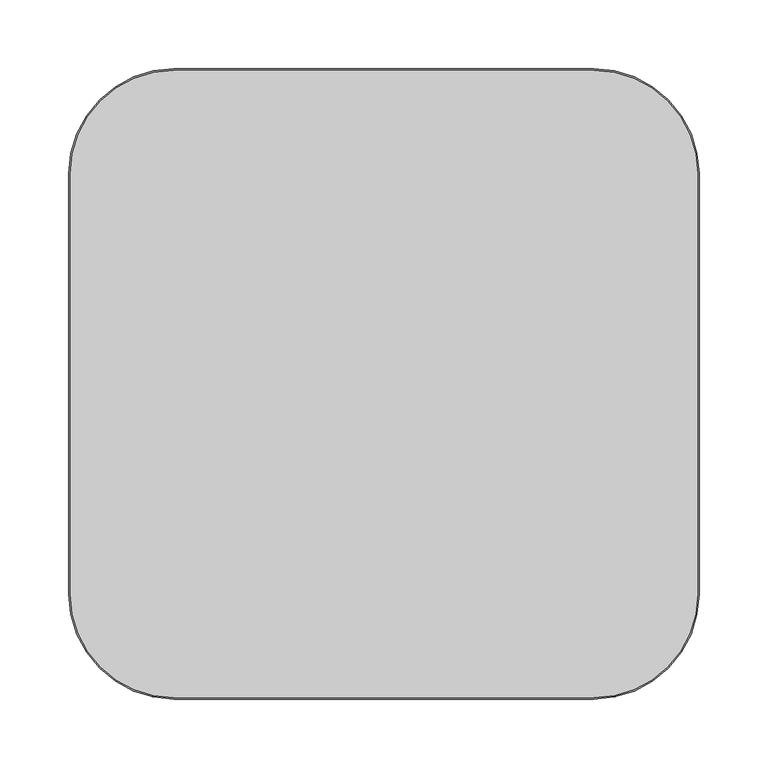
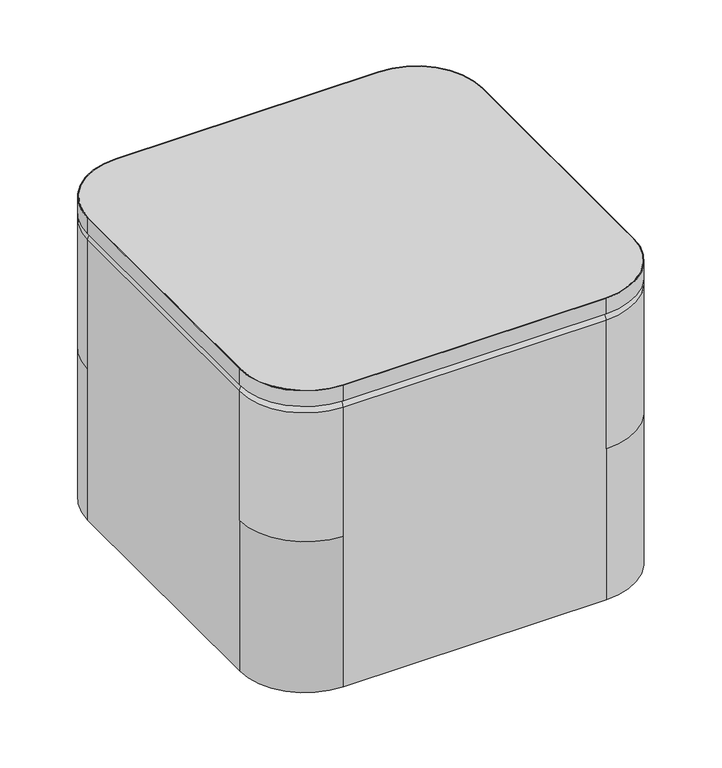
"""IFC4 building model written with IfcOpenShell, lengths in millimetres: furniture geometry, Indiana-Otty-Ottoman_Square_Table : 840-1815SOT."""

from ifc_helpers import new_model, si_unit, point, frame, frame_2d, origin, place, context, project, spatial, polyline, circle_curve, ellipse_curve, trimmed, segment, composite_curve, outline, extrude, source, transform, mapped, element, save
from ifc_brep_helpers import plane_surface, cylinder_surface, revolved_surface, advanced_brep


def furniture_a1b813e6(model_context):
    return source(origin(), model_context, "Body", "SolidModel", [
        extrude(outline(composite_curve([segment(trimmed(circle_curve(frame_2d((152.4, 152.4)), 75.2078125), [point((152.4, 227.6078125))], [point((227.6078125, 152.4))], False, "CARTESIAN"), True, "CONTINUOUS"), segment(polyline([(227.6078125, 152.4), (227.6078125, -152.4)]), True, "CONTINUOUS"), segment(trimmed(circle_curve(frame_2d((152.4, -152.4)), 75.2078125), [point((227.6078125, -152.4))], [point((152.4, -227.6078125))], False, "CARTESIAN"), True, "CONTINUOUS"), segment(polyline([(152.4, -227.6078125), (-152.4, -227.6078125)]), True, "CONTINUOUS"), segment(trimmed(circle_curve(frame_2d((-152.4, -152.4)), 75.2078125), [point((-152.4, -227.6078125))], [point((-227.6078125, -152.4))], False, "CARTESIAN"), True, "CONTINUOUS"), segment(polyline([(-227.6078125, -152.4), (-227.6078125, 152.4)]), True, "CONTINUOUS"), segment(trimmed(circle_curve(frame_2d((-152.4, 152.4)), 75.2078125), [point((-227.6078125, 152.4))], [point((-152.4, 227.6078125))], False, "CARTESIAN"), True, "CONTINUOUS"), segment(polyline([(-152.4, 227.6078125), (152.4, 227.6078125)]), True, "CONTINUOUS")], self_intersect=False)), frame((0.0, 0.0, 361.95), z_axis=(0.0, 0.0, 1.0), x_axis=(1.0, 0.0, 0.0)), (0.0, 0.0, 1.0), 19.05),
        extrude(outline(composite_curve([segment(polyline([(-228.6, -152.4), (-228.6, 152.4)]), True, "CONTINUOUS"), segment(trimmed(circle_curve(frame_2d((-152.4, 152.4)), 76.2), [point((-228.6, 152.4))], [point((-152.4, 228.6))], False, "CARTESIAN"), True, "CONTINUOUS"), segment(polyline([(-152.4, 228.6), (152.4, 228.6)]), True, "CONTINUOUS"), segment(trimmed(circle_curve(frame_2d((152.4, 152.4)), 76.2), [point((152.4, 228.6))], [point((228.6, 152.4))], False, "CARTESIAN"), True, "CONTINUOUS"), segment(polyline([(228.6, 152.4), (228.6, -152.4)]), True, "CONTINUOUS"), segment(trimmed(circle_curve(frame_2d((152.4, -152.4)), 76.2), [point((228.6, -152.4))], [point((152.4, -228.6))], False, "CARTESIAN"), True, "CONTINUOUS"), segment(polyline([(152.4, -228.6), (-152.4, -228.6)]), True, "CONTINUOUS"), segment(trimmed(circle_curve(frame_2d((-152.4, -152.4)), 76.2), [point((-152.4, -228.6))], [point((-228.6, -152.4))], False, "CARTESIAN"), True, "CONTINUOUS")], self_intersect=False), holes=[composite_curve([segment(polyline([(152.4, 227.6078125), (-152.4, 227.6078125)]), True, "CONTINUOUS"), segment(trimmed(circle_curve(frame_2d((-152.4, 152.4)), 75.2078125), [point((-152.4, 227.6078125))], [point((-227.6078125, 152.4))], True, "CARTESIAN"), True, "CONTINUOUS"), segment(polyline([(-227.6078125, 152.4), (-227.6078125, -152.4)]), True, "CONTINUOUS"), segment(trimmed(circle_curve(frame_2d((-152.4, -152.4)), 75.2078125), [point((-227.6078125, -152.4))], [point((-152.4, -227.6078125))], True, "CARTESIAN"), True, "CONTINUOUS"), segment(polyline([(-152.4, -227.6078125), (152.4, -227.6078125)]), True, "CONTINUOUS"), segment(trimmed(circle_curve(frame_2d((152.4, -152.4)), 75.2078125), [point((152.4, -227.6078125))], [point((227.6078125, -152.4))], True, "CARTESIAN"), True, "CONTINUOUS"), segment(polyline([(227.6078125, -152.4), (227.6078125, 152.4)]), True, "CONTINUOUS"), segment(trimmed(circle_curve(frame_2d((152.4, 152.4)), 75.2078125), [point((227.6078125, 152.4))], [point((152.4, 227.6078125))], True, "CARTESIAN"), True, "CONTINUOUS")], self_intersect=False)]), frame((0.0, 0.0, 361.95), z_axis=(0.0, 0.0, 1.0), x_axis=(1.0, 0.0, 0.0)), (0.0, 0.0, 1.0), 19.05),
        advanced_brep(
        [(174.625, -174.625, 19.8875), (174.625, -197.125, 19.8875), (174.625, -152.125, 19.8875), (174.625, -196.6765082, 4.2458827), (174.625, -152.5734918, 4.2458827), (174.625, -192.1913665, -0.1125), (174.625, -157.0586335, -0.1125), (174.625, -184.8926178, -0.1125), (174.625, -164.3573822, -0.1125), (174.625, -180.9981417, 3.9179615), (174.625, -168.2518583, 3.9179615), (174.625, -174.625, 3.9179615)],
        [
            (0, 1),
            (1, 2, circle_curve(frame((174.625, -174.625, 19.8875), z_axis=(0.0, 0.0, 1.0), x_axis=(0.0, -1.0, 0.0)), 22.5)),
            (2, 0),
            (2, 1, circle_curve(frame((174.625, -174.625, 19.8875), z_axis=(0.0, 0.0, 1.0), x_axis=(0.0, -1.0, 0.0)), 22.5)),
            (1, 3),
            (3, 4, circle_curve(frame((174.625, -174.625, 4.2458827), z_axis=(0.0, 0.0, 1.0), x_axis=(0.0, -1.0, 0.0)), 22.0515082)),
            (4, 2),
            (4, 3, circle_curve(frame((174.625, -174.625, 4.2458827), z_axis=(0.0, 0.0, 1.0), x_axis=(0.0, -1.0, 0.0)), 22.0515082)),
            (3, 5, circle_curve(frame((174.625, -192.1913665, 4.3744851), z_axis=(1.0, 0.0, 0.0), x_axis=(0.0, 1.0, 0.0)), 4.4869851)),
            (5, 6, circle_curve(frame((174.625, -174.625, -0.1125), z_axis=(0.0, 0.0, 1.0), x_axis=(0.0, -1.0, 0.0)), 17.5663665)),
            (6, 4, circle_curve(frame((174.625, -157.0586335, 4.3744851), z_axis=(1.0, 0.0, 0.0), x_axis=(0.0, -1.0, 0.0)), 4.4869851)),
            (6, 5, circle_curve(frame((174.625, -174.625, -0.1125), z_axis=(0.0, 0.0, 1.0), x_axis=(0.0, -1.0, 0.0)), 17.5663665)),
            (5, 7),
            (7, 8, circle_curve(frame((174.625, -174.625, -0.1125), z_axis=(0.0, 0.0, 1.0), x_axis=(0.0, -1.0, 0.0)), 10.2676178)),
            (8, 6),
            (8, 7, circle_curve(frame((174.625, -174.625, -0.1125), z_axis=(0.0, 0.0, 1.0), x_axis=(0.0, -1.0, 0.0)), 10.2676178)),
            (7, 9, circle_curve(frame((174.625, -184.8926178, 3.7842702), z_axis=(1.0, 0.0, 0.0), x_axis=(0.0, 1.0, 0.0)), 3.8967702)),
            (9, 10, circle_curve(frame((174.625, -174.625, 3.9179615), z_axis=(0.0, 0.0, 1.0), x_axis=(0.0, -1.0, 0.0)), 6.3731417)),
            (10, 8, circle_curve(frame((174.625, -164.3573822, 3.7842702), z_axis=(1.0, 0.0, 0.0), x_axis=(0.0, -1.0, 0.0)), 3.8967702)),
            (10, 9, circle_curve(frame((174.625, -174.625, 3.9179615), z_axis=(0.0, 0.0, 1.0), x_axis=(0.0, -1.0, 0.0)), 6.3731417)),
            (9, 11),
            (11, 10),
        ],
        [
            plane_surface(frame((174.625, -174.625, 19.8875), z_axis=(0.0, 0.0, 1.0), x_axis=(0.0, -1.0, 0.0))),
            revolved_surface(polyline([(174.625, -196.6765082, 4.2458827), (174.625, -197.125, 19.8875)]), (174.625, -174.625, 31.0803862), (0.0, 0.0, 1.0)),
            revolved_surface(trimmed(ellipse_curve(frame((174.625, -192.1913665, 4.3744851), z_axis=(-1.0, 0.0, 0.0), x_axis=(0.0, 1.0, 0.0)), 4.4869851, 4.4869851), [point((174.625, -192.1913665, -0.1125))], [point((174.625, -196.6765082, 4.2458827))], True, "CARTESIAN"), (174.625, -174.625, 31.0803862), (0.0, 0.0, 1.0)),
            plane_surface(frame((174.625, -174.625, -0.1125), z_axis=(0.0, 0.0, -1.0), x_axis=(0.0, -1.0, 0.0))),
            revolved_surface(trimmed(ellipse_curve(frame((174.625, -184.8926178, 3.7842702), z_axis=(-1.0, 0.0, 0.0), x_axis=(0.0, 1.0, 0.0)), 3.8967702, 3.8967702), [point((174.625, -180.9981417, 3.9179615))], [point((174.625, -184.8926178, -0.1125))], True, "CARTESIAN"), (174.625, -174.625, 31.0803862), (0.0, 0.0, 1.0)),
            plane_surface(frame((174.625, -174.625, 3.9179615), z_axis=(0.0, 0.0, -1.0), x_axis=(0.0, -1.0, 0.0))),
        ],
        [
            (0, [[1, 2, 3]]),
            (0, [[-3, 4, -1]]),
            (1, [[-2, 5, 6, 7]]),
            (1, [[-4, -7, 8, -5]]),
            (2, [[-6, 9, 10, 11]]),
            (2, [[-8, -11, 12, -9]]),
            (3, [[-10, 13, 14, 15]]),
            (3, [[-12, -15, 16, -13]]),
            (4, [[-14, 17, 18, 19]]),
            (4, [[-16, -19, 20, -17]]),
            (5, [[-18, 21, 22]]),
            (5, [[-20, -22, -21]]),
        ],
    ),
        advanced_brep(
        [(174.625, 174.625, 19.8875), (174.625, 152.125, 19.8875), (174.625, 197.125, 19.8875), (174.625, 152.5734918, 4.2458827), (174.625, 196.6765082, 4.2458827), (174.625, 157.0586335, -0.1125), (174.625, 192.1913665, -0.1125), (174.625, 164.3573822, -0.1125), (174.625, 184.8926178, -0.1125), (174.625, 168.2518583, 3.9179615), (174.625, 180.9981417, 3.9179615), (174.625, 174.625, 3.9179615)],
        [
            (0, 1),
            (1, 2, circle_curve(frame((174.625, 174.625, 19.8875), z_axis=(0.0, 0.0, 1.0), x_axis=(0.0, -1.0, 0.0)), 22.5)),
            (2, 0),
            (2, 1, circle_curve(frame((174.625, 174.625, 19.8875), z_axis=(0.0, 0.0, 1.0), x_axis=(0.0, -1.0, 0.0)), 22.5)),
            (1, 3),
            (3, 4, circle_curve(frame((174.625, 174.625, 4.2458827), z_axis=(0.0, 0.0, 1.0), x_axis=(0.0, -1.0, 0.0)), 22.0515082)),
            (4, 2),
            (4, 3, circle_curve(frame((174.625, 174.625, 4.2458827), z_axis=(0.0, 0.0, 1.0), x_axis=(0.0, -1.0, 0.0)), 22.0515082)),
            (3, 5, circle_curve(frame((174.625, 157.0586335, 4.3744851), z_axis=(1.0, 0.0, 0.0), x_axis=(0.0, 1.0, 0.0)), 4.4869851)),
            (5, 6, circle_curve(frame((174.625, 174.625, -0.1125), z_axis=(0.0, 0.0, 1.0), x_axis=(0.0, -1.0, 0.0)), 17.5663665)),
            (6, 4, circle_curve(frame((174.625, 192.1913665, 4.3744851), z_axis=(1.0, 0.0, 0.0), x_axis=(0.0, -1.0, 0.0)), 4.4869851)),
            (6, 5, circle_curve(frame((174.625, 174.625, -0.1125), z_axis=(0.0, 0.0, 1.0), x_axis=(0.0, -1.0, 0.0)), 17.5663665)),
            (5, 7),
            (7, 8, circle_curve(frame((174.625, 174.625, -0.1125), z_axis=(0.0, 0.0, 1.0), x_axis=(0.0, -1.0, 0.0)), 10.2676178)),
            (8, 6),
            (8, 7, circle_curve(frame((174.625, 174.625, -0.1125), z_axis=(0.0, 0.0, 1.0), x_axis=(0.0, -1.0, 0.0)), 10.2676178)),
            (7, 9, circle_curve(frame((174.625, 164.3573822, 3.7842702), z_axis=(1.0, 0.0, 0.0), x_axis=(0.0, 1.0, 0.0)), 3.8967702)),
            (9, 10, circle_curve(frame((174.625, 174.625, 3.9179615), z_axis=(0.0, 0.0, 1.0), x_axis=(0.0, -1.0, 0.0)), 6.3731417)),
            (10, 8, circle_curve(frame((174.625, 184.8926178, 3.7842702), z_axis=(1.0, 0.0, 0.0), x_axis=(0.0, -1.0, 0.0)), 3.8967702)),
            (10, 9, circle_curve(frame((174.625, 174.625, 3.9179615), z_axis=(0.0, 0.0, 1.0), x_axis=(0.0, -1.0, 0.0)), 6.3731417)),
            (9, 11),
            (11, 10),
        ],
        [
            plane_surface(frame((174.625, 174.625, 19.8875), z_axis=(0.0, 0.0, 1.0), x_axis=(0.0, -1.0, 0.0))),
            revolved_surface(polyline([(174.625, 152.5734918, 4.2458827), (174.625, 152.125, 19.8875)]), (174.625, 174.625, 31.0803862), (0.0, 0.0, 1.0)),
            revolved_surface(trimmed(ellipse_curve(frame((174.625, 157.0586335, 4.3744851), z_axis=(-1.0, 0.0, 0.0), x_axis=(0.0, 1.0, 0.0)), 4.4869851, 4.4869851), [point((174.625, 157.0586335, -0.1125))], [point((174.625, 152.5734918, 4.2458827))], True, "CARTESIAN"), (174.625, 174.625, 31.0803862), (0.0, 0.0, 1.0)),
            plane_surface(frame((174.625, 174.625, -0.1125), z_axis=(0.0, 0.0, -1.0), x_axis=(0.0, -1.0, 0.0))),
            revolved_surface(trimmed(ellipse_curve(frame((174.625, 164.3573822, 3.7842702), z_axis=(-1.0, 0.0, 0.0), x_axis=(0.0, 1.0, 0.0)), 3.8967702, 3.8967702), [point((174.625, 168.2518583, 3.9179615))], [point((174.625, 164.3573822, -0.1125))], True, "CARTESIAN"), (174.625, 174.625, 31.0803862), (0.0, 0.0, 1.0)),
            plane_surface(frame((174.625, 174.625, 3.9179615), z_axis=(0.0, 0.0, -1.0), x_axis=(0.0, -1.0, 0.0))),
        ],
        [
            (0, [[1, 2, 3]]),
            (0, [[-3, 4, -1]]),
            (1, [[-2, 5, 6, 7]]),
            (1, [[-4, -7, 8, -5]]),
            (2, [[-6, 9, 10, 11]]),
            (2, [[-8, -11, 12, -9]]),
            (3, [[-10, 13, 14, 15]]),
            (3, [[-12, -15, 16, -13]]),
            (4, [[-14, 17, 18, 19]]),
            (4, [[-16, -19, 20, -17]]),
            (5, [[-18, 21, 22]]),
            (5, [[-20, -22, -21]]),
        ],
    ),
        advanced_brep(
        [(-174.625, -174.625, 19.8875), (-174.625, -197.125, 19.8875), (-174.625, -152.125, 19.8875), (-174.625, -196.6765082, 4.2458827), (-174.625, -152.5734918, 4.2458827), (-174.625, -192.1913665, -0.1125), (-174.625, -157.0586335, -0.1125), (-174.625, -184.8926178, -0.1125), (-174.625, -164.3573822, -0.1125), (-174.625, -180.9981417, 3.9179615), (-174.625, -168.2518583, 3.9179615), (-174.625, -174.625, 3.9179615)],
        [
            (0, 1),
            (1, 2, circle_curve(frame((-174.625, -174.625, 19.8875), z_axis=(0.0, 0.0, 1.0), x_axis=(0.0, -1.0, 0.0)), 22.5)),
            (2, 0),
            (2, 1, circle_curve(frame((-174.625, -174.625, 19.8875), z_axis=(0.0, 0.0, 1.0), x_axis=(0.0, -1.0, 0.0)), 22.5)),
            (1, 3),
            (3, 4, circle_curve(frame((-174.625, -174.625, 4.2458827), z_axis=(0.0, 0.0, 1.0), x_axis=(0.0, -1.0, 0.0)), 22.0515082)),
            (4, 2),
            (4, 3, circle_curve(frame((-174.625, -174.625, 4.2458827), z_axis=(0.0, 0.0, 1.0), x_axis=(0.0, -1.0, 0.0)), 22.0515082)),
            (3, 5, circle_curve(frame((-174.625, -192.1913665, 4.3744851), z_axis=(1.0, 0.0, 0.0), x_axis=(0.0, 1.0, 0.0)), 4.4869851)),
            (5, 6, circle_curve(frame((-174.625, -174.625, -0.1125), z_axis=(0.0, 0.0, 1.0), x_axis=(0.0, -1.0, 0.0)), 17.5663665)),
            (6, 4, circle_curve(frame((-174.625, -157.0586335, 4.3744851), z_axis=(1.0, 0.0, 0.0), x_axis=(0.0, -1.0, 0.0)), 4.4869851)),
            (6, 5, circle_curve(frame((-174.625, -174.625, -0.1125), z_axis=(0.0, 0.0, 1.0), x_axis=(0.0, -1.0, 0.0)), 17.5663665)),
            (5, 7),
            (7, 8, circle_curve(frame((-174.625, -174.625, -0.1125), z_axis=(0.0, 0.0, 1.0), x_axis=(0.0, -1.0, 0.0)), 10.2676178)),
            (8, 6),
            (8, 7, circle_curve(frame((-174.625, -174.625, -0.1125), z_axis=(0.0, 0.0, 1.0), x_axis=(0.0, -1.0, 0.0)), 10.2676178)),
            (7, 9, circle_curve(frame((-174.625, -184.8926178, 3.7842702), z_axis=(1.0, 0.0, 0.0), x_axis=(0.0, 1.0, 0.0)), 3.8967702)),
            (9, 10, circle_curve(frame((-174.625, -174.625, 3.9179615), z_axis=(0.0, 0.0, 1.0), x_axis=(0.0, -1.0, 0.0)), 6.3731417)),
            (10, 8, circle_curve(frame((-174.625, -164.3573822, 3.7842702), z_axis=(1.0, 0.0, 0.0), x_axis=(0.0, -1.0, 0.0)), 3.8967702)),
            (10, 9, circle_curve(frame((-174.625, -174.625, 3.9179615), z_axis=(0.0, 0.0, 1.0), x_axis=(0.0, -1.0, 0.0)), 6.3731417)),
            (9, 11),
            (11, 10),
        ],
        [
            plane_surface(frame((-174.625, -174.625, 19.8875), z_axis=(0.0, 0.0, 1.0), x_axis=(0.0, -1.0, 0.0))),
            revolved_surface(polyline([(-174.625, -196.6765082, 4.2458827), (-174.625, -197.125, 19.8875)]), (-174.625, -174.625, 31.0803862), (0.0, 0.0, 1.0)),
            revolved_surface(trimmed(ellipse_curve(frame((-174.625, -192.1913665, 4.3744851), z_axis=(-1.0, 0.0, 0.0), x_axis=(0.0, 1.0, 0.0)), 4.4869851, 4.4869851), [point((-174.625, -192.1913665, -0.1125))], [point((-174.625, -196.6765082, 4.2458827))], True, "CARTESIAN"), (-174.625, -174.625, 31.0803862), (0.0, 0.0, 1.0)),
            plane_surface(frame((-174.625, -174.625, -0.1125), z_axis=(0.0, 0.0, -1.0), x_axis=(0.0, -1.0, 0.0))),
            revolved_surface(trimmed(ellipse_curve(frame((-174.625, -184.8926178, 3.7842702), z_axis=(-1.0, 0.0, 0.0), x_axis=(0.0, 1.0, 0.0)), 3.8967702, 3.8967702), [point((-174.625, -180.9981417, 3.9179615))], [point((-174.625, -184.8926178, -0.1125))], True, "CARTESIAN"), (-174.625, -174.625, 31.0803862), (0.0, 0.0, 1.0)),
            plane_surface(frame((-174.625, -174.625, 3.9179615), z_axis=(0.0, 0.0, -1.0), x_axis=(0.0, -1.0, 0.0))),
        ],
        [
            (0, [[1, 2, 3]]),
            (0, [[-3, 4, -1]]),
            (1, [[-2, 5, 6, 7]]),
            (1, [[-4, -7, 8, -5]]),
            (2, [[-6, 9, 10, 11]]),
            (2, [[-8, -11, 12, -9]]),
            (3, [[-10, 13, 14, 15]]),
            (3, [[-12, -15, 16, -13]]),
            (4, [[-14, 17, 18, 19]]),
            (4, [[-16, -19, 20, -17]]),
            (5, [[-18, 21, 22]]),
            (5, [[-20, -22, -21]]),
        ],
    ),
        advanced_brep(
        [(-174.625, 174.625, 19.8875), (-174.625, 152.125, 19.8875), (-174.625, 197.125, 19.8875), (-174.625, 152.5734918, 4.2458827), (-174.625, 196.6765082, 4.2458827), (-174.625, 157.0586335, -0.1125), (-174.625, 192.1913665, -0.1125), (-174.625, 164.3573822, -0.1125), (-174.625, 184.8926178, -0.1125), (-174.625, 168.2518583, 3.9179615), (-174.625, 180.9981417, 3.9179615), (-174.625, 174.625, 3.9179615)],
        [
            (0, 1),
            (1, 2, circle_curve(frame((-174.625, 174.625, 19.8875), z_axis=(0.0, 0.0, 1.0), x_axis=(0.0, -1.0, 0.0)), 22.5)),
            (2, 0),
            (2, 1, circle_curve(frame((-174.625, 174.625, 19.8875), z_axis=(0.0, 0.0, 1.0), x_axis=(0.0, -1.0, 0.0)), 22.5)),
            (1, 3),
            (3, 4, circle_curve(frame((-174.625, 174.625, 4.2458827), z_axis=(0.0, 0.0, 1.0), x_axis=(0.0, -1.0, 0.0)), 22.0515082)),
            (4, 2),
            (4, 3, circle_curve(frame((-174.625, 174.625, 4.2458827), z_axis=(0.0, 0.0, 1.0), x_axis=(0.0, -1.0, 0.0)), 22.0515082)),
            (3, 5, circle_curve(frame((-174.625, 157.0586335, 4.3744851), z_axis=(1.0, 0.0, 0.0), x_axis=(0.0, 1.0, 0.0)), 4.4869851)),
            (5, 6, circle_curve(frame((-174.625, 174.625, -0.1125), z_axis=(0.0, 0.0, 1.0), x_axis=(0.0, -1.0, 0.0)), 17.5663665)),
            (6, 4, circle_curve(frame((-174.625, 192.1913665, 4.3744851), z_axis=(1.0, 0.0, 0.0), x_axis=(0.0, -1.0, 0.0)), 4.4869851)),
            (6, 5, circle_curve(frame((-174.625, 174.625, -0.1125), z_axis=(0.0, 0.0, 1.0), x_axis=(0.0, -1.0, 0.0)), 17.5663665)),
            (5, 7),
            (7, 8, circle_curve(frame((-174.625, 174.625, -0.1125), z_axis=(0.0, 0.0, 1.0), x_axis=(0.0, -1.0, 0.0)), 10.2676178)),
            (8, 6),
            (8, 7, circle_curve(frame((-174.625, 174.625, -0.1125), z_axis=(0.0, 0.0, 1.0), x_axis=(0.0, -1.0, 0.0)), 10.2676178)),
            (7, 9, circle_curve(frame((-174.625, 164.3573822, 3.7842702), z_axis=(1.0, 0.0, 0.0), x_axis=(0.0, 1.0, 0.0)), 3.8967702)),
            (9, 10, circle_curve(frame((-174.625, 174.625, 3.9179615), z_axis=(0.0, 0.0, 1.0), x_axis=(0.0, -1.0, 0.0)), 6.3731417)),
            (10, 8, circle_curve(frame((-174.625, 184.8926178, 3.7842702), z_axis=(1.0, 0.0, 0.0), x_axis=(0.0, -1.0, 0.0)), 3.8967702)),
            (10, 9, circle_curve(frame((-174.625, 174.625, 3.9179615), z_axis=(0.0, 0.0, 1.0), x_axis=(0.0, -1.0, 0.0)), 6.3731417)),
            (9, 11),
            (11, 10),
        ],
        [
            plane_surface(frame((-174.625, 174.625, 19.8875), z_axis=(0.0, 0.0, 1.0), x_axis=(0.0, -1.0, 0.0))),
            revolved_surface(polyline([(-174.625, 152.5734918, 4.2458827), (-174.625, 152.125, 19.8875)]), (-174.625, 174.625, 31.0803862), (0.0, 0.0, 1.0)),
            revolved_surface(trimmed(ellipse_curve(frame((-174.625, 157.0586335, 4.3744851), z_axis=(-1.0, 0.0, 0.0), x_axis=(0.0, 1.0, 0.0)), 4.4869851, 4.4869851), [point((-174.625, 157.0586335, -0.1125))], [point((-174.625, 152.5734918, 4.2458827))], True, "CARTESIAN"), (-174.625, 174.625, 31.0803862), (0.0, 0.0, 1.0)),
            plane_surface(frame((-174.625, 174.625, -0.1125), z_axis=(0.0, 0.0, -1.0), x_axis=(0.0, -1.0, 0.0))),
            revolved_surface(trimmed(ellipse_curve(frame((-174.625, 164.3573822, 3.7842702), z_axis=(-1.0, 0.0, 0.0), x_axis=(0.0, 1.0, 0.0)), 3.8967702, 3.8967702), [point((-174.625, 168.2518583, 3.9179615))], [point((-174.625, 164.3573822, -0.1125))], True, "CARTESIAN"), (-174.625, 174.625, 31.0803862), (0.0, 0.0, 1.0)),
            plane_surface(frame((-174.625, 174.625, 3.9179615), z_axis=(0.0, 0.0, -1.0), x_axis=(0.0, -1.0, 0.0))),
        ],
        [
            (0, [[1, 2, 3]]),
            (0, [[-3, 4, -1]]),
            (1, [[-2, 5, 6, 7]]),
            (1, [[-4, -7, 8, -5]]),
            (2, [[-6, 9, 10, 11]]),
            (2, [[-8, -11, 12, -9]]),
            (3, [[-10, 13, 14, 15]]),
            (3, [[-12, -15, 16, -13]]),
            (4, [[-14, 17, 18, 19]]),
            (4, [[-16, -19, 20, -17]]),
            (5, [[-18, 21, 22]]),
            (5, [[-20, -22, -21]]),
        ],
    ),
        advanced_brep(
        [(152.4, 228.6, 196.25), (152.4, 228.6, 354.0043778), (228.6, 152.4, 354.0043778), (228.6, 152.4, 196.25), (228.6, -152.4, 354.0043778), (228.6, -152.4, 196.25), (228.6, -152.4, 11.5), (228.6, 152.4, 11.5), (152.4, -228.6, 354.0043778), (152.4, -228.6, 196.25), (-152.4, -228.6, 354.0043778), (-152.4, -228.6, 196.25), (-152.4, -228.6, 11.5), (152.4, -228.6, 11.5), (-228.6, -152.4, 354.0043778), (-228.6, -152.4, 196.25), (-228.6, 152.4, 354.0043778), (-228.6, 152.4, 196.25), (-228.6, 152.4, 11.5), (-228.6, -152.4, 11.5), (-152.4, 228.6, 354.0043778), (-152.4, 228.6, 196.25), (152.4, 220.6543778, 361.95), (-152.4, 220.6543778, 361.95), (-220.6543778, 152.4, 361.95), (-220.6543778, -152.4, 361.95), (-152.4, -220.6543778, 361.95), (152.4, -220.6543778, 361.95), (220.6543778, -152.4, 361.95), (220.6543778, 152.4, 361.95), (152.4, 228.6, 11.5), (-152.4, 228.6, 11.5), (-197.64375, -174.625, 11.5), (-151.60625, -174.625, 11.5), (-197.64375, 174.625, 11.5), (-151.60625, 174.625, 11.5), (151.60625, 174.625, 11.5), (197.64375, 174.625, 11.5), (151.60625, -174.625, 11.5), (197.64375, -174.625, 11.5), (-0.396875, 174.625, 11.5), (0.396875, 174.625, 11.5), (-0.396875, -174.625, 11.5), (0.396875, -174.625, 11.5), (-151.60625, -174.625, 19.834375), (-197.64375, -174.625, 19.834375), (-151.60625, 174.625, 19.834375), (-197.64375, 174.625, 19.834375), (151.60625, 174.625, 19.834375), (197.64375, 174.625, 19.834375), (151.60625, -174.625, 19.834375), (197.64375, -174.625, 19.834375), (-0.396875, 174.625, 11.896875), (0.396875, 174.625, 11.896875), (-0.396875, -174.625, 11.896875), (0.396875, -174.625, 11.896875)],
        [
            (0, 1),
            (1, 2, circle_curve(frame((152.4, 152.4, 354.0043778), z_axis=(0.0, 0.0, -1.0), x_axis=(0.0, 1.0, 0.0)), 76.2)),
            (2, 3),
            (3, 0, circle_curve(frame((152.4, 152.4, 196.25), z_axis=(0.0, 0.0, 1.0), x_axis=(0.0, 1.0, 0.0)), 76.2)),
            (2, 4),
            (4, 5),
            (5, 6),
            (6, 7),
            (7, 3),
            (4, 8, circle_curve(frame((152.4, -152.4, 354.0043778), z_axis=(0.0, 0.0, -1.0), x_axis=(1.0, 0.0, 0.0)), 76.2)),
            (8, 9),
            (9, 5, circle_curve(frame((152.4, -152.4, 196.25), z_axis=(0.0, 0.0, 1.0), x_axis=(1.0, 0.0, 0.0)), 76.2)),
            (8, 10),
            (10, 11),
            (11, 12),
            (12, 13),
            (13, 9),
            (10, 14, circle_curve(frame((-152.4, -152.4, 354.0043778), z_axis=(0.0, 0.0, -1.0), x_axis=(0.0, -1.0, 0.0)), 76.2)),
            (14, 15),
            (15, 11, circle_curve(frame((-152.4, -152.4, 196.25), z_axis=(0.0, 0.0, 1.0), x_axis=(0.0, -1.0, 0.0)), 76.2)),
            (14, 16),
            (16, 17),
            (17, 18),
            (18, 19),
            (19, 15),
            (16, 20, circle_curve(frame((-152.4, 152.4, 354.0043778), z_axis=(0.0, 0.0, -1.0), x_axis=(-1.0, 0.0, 0.0)), 76.2)),
            (20, 21),
            (21, 17, circle_curve(frame((-152.4, 152.4, 196.25), z_axis=(0.0, 0.0, 1.0), x_axis=(-1.0, 0.0, 0.0)), 76.2)),
            (22, 23),
            (23, 24, circle_curve(frame((-152.4, 152.4, 361.95), z_axis=(0.0, 0.0, 1.0), x_axis=(-1.0, 0.0, 0.0)), 68.2543778)),
            (24, 25),
            (25, 26, circle_curve(frame((-152.4, -152.4, 361.95), z_axis=(0.0, 0.0, 1.0), x_axis=(0.0, -1.0, 0.0)), 68.2543778)),
            (26, 27),
            (27, 28, circle_curve(frame((152.4, -152.4, 361.95), z_axis=(0.0, 0.0, 1.0), x_axis=(1.0, 0.0, 0.0)), 68.2543778)),
            (28, 29),
            (29, 22, circle_curve(frame((152.4, 152.4, 361.95), z_axis=(0.0, 0.0, 1.0), x_axis=(0.0, 1.0, 0.0)), 68.2543778)),
            (0, 30),
            (30, 31),
            (31, 21),
            (20, 1),
            (30, 7, circle_curve(frame((152.4, 152.4, 11.5), z_axis=(0.0, 0.0, -1.0), x_axis=(1.0, 0.0, 0.0)), 76.2)),
            (6, 13, circle_curve(frame((152.4, -152.4, 11.5), z_axis=(0.0, 0.0, -1.0), x_axis=(1.0, 0.0, 0.0)), 76.2)),
            (12, 19, circle_curve(frame((-152.4, -152.4, 11.5), z_axis=(0.0, 0.0, -1.0), x_axis=(1.0, 0.0, 0.0)), 76.2)),
            (18, 31, circle_curve(frame((-152.4, 152.4, 11.5), z_axis=(0.0, 0.0, -1.0), x_axis=(1.0, 0.0, 0.0)), 76.2)),
            (32, 33, circle_curve(frame((-174.625, -174.625, 11.5), z_axis=(0.0, 0.0, 1.0), x_axis=(-1.0, 0.0, 0.0)), 23.01875)),
            (33, 32, circle_curve(frame((-174.625, -174.625, 11.5), z_axis=(0.0, 0.0, 1.0), x_axis=(-1.0, 0.0, 0.0)), 23.01875)),
            (34, 35, circle_curve(frame((-174.625, 174.625, 11.5), z_axis=(0.0, 0.0, 1.0), x_axis=(-1.0, 0.0, 0.0)), 23.01875)),
            (35, 34, circle_curve(frame((-174.625, 174.625, 11.5), z_axis=(0.0, 0.0, 1.0), x_axis=(-1.0, 0.0, 0.0)), 23.01875)),
            (36, 37, circle_curve(frame((174.625, 174.625, 11.5), z_axis=(0.0, 0.0, 1.0), x_axis=(-1.0, 0.0, 0.0)), 23.01875)),
            (37, 36, circle_curve(frame((174.625, 174.625, 11.5), z_axis=(0.0, 0.0, 1.0), x_axis=(-1.0, 0.0, 0.0)), 23.01875)),
            (38, 39, circle_curve(frame((174.625, -174.625, 11.5), z_axis=(0.0, 0.0, 1.0), x_axis=(-1.0, 0.0, 0.0)), 23.01875)),
            (39, 38, circle_curve(frame((174.625, -174.625, 11.5), z_axis=(0.0, 0.0, 1.0), x_axis=(-1.0, 0.0, 0.0)), 23.01875)),
            (40, 41, circle_curve(frame((0.0, 174.625, 11.5), z_axis=(0.0, 0.0, 1.0), x_axis=(-1.0, 0.0, 0.0)), 0.396875)),
            (41, 40, circle_curve(frame((0.0, 174.625, 11.5), z_axis=(0.0, 0.0, 1.0), x_axis=(-1.0, 0.0, 0.0)), 0.396875)),
            (42, 43, circle_curve(frame((0.0, -174.625, 11.5), z_axis=(0.0, 0.0, 1.0), x_axis=(-1.0, 0.0, 0.0)), 0.396875)),
            (43, 42, circle_curve(frame((0.0, -174.625, 11.5), z_axis=(0.0, 0.0, 1.0), x_axis=(-1.0, 0.0, 0.0)), 0.396875)),
            (44, 45, circle_curve(frame((-174.625, -174.625, 19.834375), z_axis=(0.0, 0.0, -1.0), x_axis=(-1.0, 0.0, 0.0)), 23.01875)),
            (45, 44, circle_curve(frame((-174.625, -174.625, 19.834375), z_axis=(0.0, 0.0, -1.0), x_axis=(-1.0, 0.0, 0.0)), 23.01875)),
            (32, 45),
            (44, 33),
            (46, 47, circle_curve(frame((-174.625, 174.625, 19.834375), z_axis=(0.0, 0.0, -1.0), x_axis=(-1.0, 0.0, 0.0)), 23.01875)),
            (47, 46, circle_curve(frame((-174.625, 174.625, 19.834375), z_axis=(0.0, 0.0, -1.0), x_axis=(-1.0, 0.0, 0.0)), 23.01875)),
            (34, 47),
            (46, 35),
            (36, 48),
            (48, 49, circle_curve(frame((174.625, 174.625, 19.834375), z_axis=(0.0, 0.0, 1.0), x_axis=(-1.0, 0.0, 0.0)), 23.01875)),
            (49, 37),
            (49, 48, circle_curve(frame((174.625, 174.625, 19.834375), z_axis=(0.0, 0.0, 1.0), x_axis=(-1.0, 0.0, 0.0)), 23.01875)),
            (38, 50),
            (50, 51, circle_curve(frame((174.625, -174.625, 19.834375), z_axis=(0.0, 0.0, 1.0), x_axis=(-1.0, 0.0, 0.0)), 23.01875)),
            (51, 39),
            (51, 50, circle_curve(frame((174.625, -174.625, 19.834375), z_axis=(0.0, 0.0, 1.0), x_axis=(-1.0, 0.0, 0.0)), 23.01875)),
            (40, 52),
            (52, 53, circle_curve(frame((0.0, 174.625, 11.896875), z_axis=(0.0, 0.0, 1.0), x_axis=(-1.0, 0.0, 0.0)), 0.396875)),
            (53, 41),
            (53, 52, circle_curve(frame((0.0, 174.625, 11.896875), z_axis=(0.0, 0.0, 1.0), x_axis=(-1.0, 0.0, 0.0)), 0.396875)),
            (42, 54),
            (54, 55, circle_curve(frame((0.0, -174.625, 11.896875), z_axis=(0.0, 0.0, 1.0), x_axis=(-1.0, 0.0, 0.0)), 0.396875)),
            (55, 43),
            (55, 54, circle_curve(frame((0.0, -174.625, 11.896875), z_axis=(0.0, 0.0, 1.0), x_axis=(-1.0, 0.0, 0.0)), 0.396875)),
            (1, 22, circle_curve(frame((152.4, 220.6543778, 354.0043778), z_axis=(1.0, 0.0, 0.0), x_axis=(0.0, 1.0, 0.0)), 7.9456222)),
            (29, 2, circle_curve(frame((220.6543778, 152.4, 354.0043778), z_axis=(0.0, 1.0, 0.0), x_axis=(1.0, 0.0, 0.0)), 7.9456222)),
            (28, 4, circle_curve(frame((220.6543778, -152.4, 354.0043778), z_axis=(0.0, 1.0, 0.0), x_axis=(1.0, 0.0, 0.0)), 7.9456222)),
            (27, 8, circle_curve(frame((152.4, -220.6543778, 354.0043778), z_axis=(1.0, 0.0, 0.0), x_axis=(0.0, -1.0, 0.0)), 7.9456222)),
            (26, 10, circle_curve(frame((-152.4, -220.6543778, 354.0043778), z_axis=(1.0, 0.0, 0.0), x_axis=(0.0, -1.0, 0.0)), 7.9456222)),
            (25, 14, circle_curve(frame((-220.6543778, -152.4, 354.0043778), z_axis=(0.0, -1.0, 0.0), x_axis=(-1.0, 0.0, 0.0)), 7.9456222)),
            (24, 16, circle_curve(frame((-220.6543778, 152.4, 354.0043778), z_axis=(0.0, -1.0, 0.0), x_axis=(-1.0, 0.0, 0.0)), 7.9456222)),
            (23, 20, circle_curve(frame((-152.4, 220.6543778, 354.0043778), z_axis=(-1.0, 0.0, 0.0), x_axis=(0.0, 1.0, 0.0)), 7.9456222)),
        ],
        [
            cylinder_surface(frame((152.4, 152.4, 0.0), z_axis=(0.0, 0.0, -1.0), x_axis=(0.0, 1.0, 0.0)), 76.2),
            plane_surface(frame((228.6, 152.4, 354.0043778), z_axis=(1.0, 0.0, 0.0), x_axis=(0.0, -1.0, 0.0))),
            cylinder_surface(frame((152.4, -152.4, 0.0), z_axis=(0.0, 0.0, -1.0), x_axis=(1.0, 0.0, 0.0)), 76.2),
            plane_surface(frame((152.4, -228.6, 354.0043778), z_axis=(0.0, -1.0, 0.0), x_axis=(-1.0, 0.0, 0.0))),
            cylinder_surface(frame((-152.4, -152.4, 0.0), z_axis=(0.0, 0.0, -1.0), x_axis=(0.0, -1.0, 0.0)), 76.2),
            plane_surface(frame((-228.6, -152.4, 354.0043778), z_axis=(-1.0, 0.0, 0.0), x_axis=(0.0, 1.0, 0.0))),
            cylinder_surface(frame((-152.4, 152.4, 0.0), z_axis=(0.0, 0.0, -1.0), x_axis=(-1.0, 0.0, 0.0)), 76.2),
            plane_surface(frame((-152.4, 155.575, 361.95), z_axis=(0.0, 0.0, 1.0), x_axis=(1.0, 0.0, 0.0))),
            plane_surface(frame((-152.4, 228.6, 354.0043778), z_axis=(0.0, 1.0, 0.0), x_axis=(1.0, 0.0, 0.0))),
            plane_surface(frame((-152.4, 228.6, 11.5), z_axis=(0.0, 0.0, -1.0), x_axis=(1.0, 0.0, 0.0))),
            cylinder_surface(frame((-152.4, 152.4, 11.5), z_axis=(0.0, 0.0, 1.0), x_axis=(1.0, 0.0, 0.0)), 76.2),
            cylinder_surface(frame((-152.4, -152.4, 11.5), z_axis=(0.0, 0.0, 1.0), x_axis=(1.0, 0.0, 0.0)), 76.2),
            cylinder_surface(frame((152.4, -152.4, 11.5), z_axis=(0.0, 0.0, 1.0), x_axis=(1.0, 0.0, 0.0)), 76.2),
            cylinder_surface(frame((152.4, 152.4, 11.5), z_axis=(0.0, 0.0, 1.0), x_axis=(1.0, 0.0, 0.0)), 76.2),
            plane_surface(frame((-197.64375, -174.625, 19.834375), z_axis=(0.0, 0.0, -1.0), x_axis=(0.0, -1.0, 0.0))),
            revolved_surface(polyline([(-197.64375, -174.625, 11.5), (-197.64375, -174.625, 19.834375)]), (-174.625, -174.625, 19.834375), (0.0, 0.0, -1.0)),
            plane_surface(frame((-197.64375, 174.625, 19.834375), z_axis=(0.0, 0.0, -1.0), x_axis=(0.0, -1.0, 0.0))),
            revolved_surface(polyline([(-197.64375, 174.625, 11.5), (-197.64375, 174.625, 19.834375)]), (-174.625, 174.625, 19.834375), (0.0, 0.0, -1.0)),
            revolved_surface(polyline([(151.60625, 174.625, 11.5), (151.60625, 174.625, 19.834375)]), (174.625, 174.625, 19.834375), (0.0, 0.0, -1.0)),
            revolved_surface(polyline([(151.60625, -174.625, 11.5), (151.60625, -174.625, 19.834375)]), (174.625, -174.625, 19.834375), (0.0, 0.0, -1.0)),
            plane_surface(frame((151.60625, 174.625, 19.834375), z_axis=(0.0, 0.0, -1.0), x_axis=(0.0, -1.0, 0.0))),
            plane_surface(frame((151.60625, -174.625, 19.834375), z_axis=(0.0, 0.0, -1.0), x_axis=(0.0, -1.0, 0.0))),
            revolved_surface(polyline([(-0.396875, 174.625, 11.5), (-0.396875, 174.625, 11.896875)]), (0.0, 174.625, 11.896875), (0.0, 0.0, -1.0)),
            revolved_surface(polyline([(-0.396875, -174.625, 11.5), (-0.396875, -174.625, 11.896875)]), (0.0, -174.625, 11.896875), (0.0, 0.0, -1.0)),
            plane_surface(frame((-0.396875, -174.625, 11.896875), z_axis=(0.0, 0.0, -1.0), x_axis=(0.0, -1.0, 0.0))),
            plane_surface(frame((-0.396875, 174.625, 11.896875), z_axis=(0.0, 0.0, -1.0), x_axis=(0.0, -1.0, 0.0))),
            revolved_surface(trimmed(ellipse_curve(frame((152.4, 220.6543778, 354.0043778), z_axis=(-1.0, 0.0, 0.0), x_axis=(0.0, 1.0, 0.0)), 7.9456222, 7.9456222), [point((152.4, 220.6543778, 361.95))], [point((152.4, 228.6, 354.0043778))], True, "CARTESIAN"), (152.4, 152.4, 0.0), (0.0, 0.0, -1.0)),
            cylinder_surface(frame((220.6543778, 152.4, 354.0043778), z_axis=(0.0, 1.0, 0.0), x_axis=(1.0, 0.0, 0.0)), 7.9456222),
            revolved_surface(trimmed(ellipse_curve(frame((220.6543778, -152.4, 354.0043778), z_axis=(0.0, 1.0, 0.0), x_axis=(1.0, 0.0, 0.0)), 7.9456222, 7.9456222), [point((220.6543778, -152.4, 361.95))], [point((228.6, -152.4, 354.0043778))], True, "CARTESIAN"), (152.4, -152.4, 0.0), (0.0, 0.0, -1.0)),
            cylinder_surface(frame((152.4, -220.6543778, 354.0043778), z_axis=(1.0, 0.0, 0.0), x_axis=(0.0, -1.0, 0.0)), 7.9456222),
            revolved_surface(trimmed(ellipse_curve(frame((-152.4, -220.6543778, 354.0043778), z_axis=(1.0, 0.0, 0.0), x_axis=(0.0, -1.0, 0.0)), 7.9456222, 7.9456222), [point((-152.4, -220.6543778, 361.95))], [point((-152.4, -228.6, 354.0043778))], True, "CARTESIAN"), (-152.4, -152.4, 0.0), (0.0, 0.0, -1.0)),
            cylinder_surface(frame((-220.6543778, -152.4, 354.0043778), z_axis=(0.0, -1.0, 0.0), x_axis=(-1.0, 0.0, 0.0)), 7.9456222),
            revolved_surface(trimmed(ellipse_curve(frame((-220.6543778, 152.4, 354.0043778), z_axis=(0.0, -1.0, 0.0), x_axis=(-1.0, 0.0, 0.0)), 7.9456222, 7.9456222), [point((-220.6543778, 152.4, 361.95))], [point((-228.6, 152.4, 354.0043778))], True, "CARTESIAN"), (-152.4, 152.4, 0.0), (0.0, 0.0, -1.0)),
            cylinder_surface(frame((-152.4, 220.6543778, 354.0043778), z_axis=(-1.0, 0.0, 0.0), x_axis=(0.0, 1.0, 0.0)), 7.9456222),
        ],
        [
            (0, [[1, 2, 3, 4]]),
            (1, [[-3, 5, 6, 7, 8, 9]]),
            (2, [[-6, 10, 11, 12]]),
            (3, [[-11, 13, 14, 15, 16, 17]]),
            (4, [[-14, 18, 19, 20]]),
            (5, [[-19, 21, 22, 23, 24, 25]]),
            (6, [[-22, 26, 27, 28]]),
            (7, [[29, 30, 31, 32, 33, 34, 35, 36]]),
            (8, [[-1, 37, 38, 39, -27, 40]]),
            (9, [[-38, 41, -8, 42, -16, 43, -24, 44], [45, 46], [47, 48], [49, 50], [51, 52], [53, 54], [55, 56]]),
            (10, [[-44, -23, -28, -39]]),
            (11, [[-43, -15, -20, -25]]),
            (12, [[-42, -7, -12, -17]]),
            (13, [[-41, -37, -4, -9]]),
            (14, [[57, 58]]),
            (15, [[-45, 59, -57, 60]]),
            (15, [[-46, -60, -58, -59]]),
            (16, [[61, 62]]),
            (17, [[-47, 63, -61, 64]]),
            (17, [[-48, -64, -62, -63]]),
            (18, [[-49, 65, 66, 67]]),
            (18, [[-50, -67, 68, -65]]),
            (19, [[-51, 69, 70, 71]]),
            (19, [[-52, -71, 72, -69]]),
            (20, [[-66, -68]]),
            (21, [[-70, -72]]),
            (22, [[-53, 73, 74, 75]]),
            (22, [[-54, -75, 76, -73]]),
            (23, [[-55, 77, 78, 79]]),
            (23, [[-56, -79, 80, -77]]),
            (24, [[-78, -80]]),
            (25, [[-74, -76]]),
            (26, [[-2, 81, -36, 82]]),
            (27, [[-5, -82, -35, 83]]),
            (28, [[-10, -83, -34, 84]]),
            (29, [[-13, -84, -33, 85]]),
            (30, [[-18, -85, -32, 86]]),
            (31, [[-21, -86, -31, 87]]),
            (32, [[-26, -87, -30, 88]]),
            (33, [[-29, -81, -40, -88]]),
        ],
    ),
    ])


if __name__ == "__main__":
    model = new_model("IFC4")
    model_context = context("Model", 3, world=origin())
    ifc_project = project(units=[si_unit("LENGTHUNIT", "METRE", prefix="MILLI")], contexts=[model_context])
    site = spatial("IfcSite", under=ifc_project)
    building = spatial("IfcBuilding", under=site)
    placement = place(None, origin())
    furniture_shape = furniture_a1b813e6(model_context)
    element("IfcFurniture", 1, ObjectType="Indiana-Otty-Ottoman_Square_Table : 840-1815SOT", at=placement, inside=building, context=model_context, shape_type="MappedRepresentation", body=[
        mapped(furniture_shape, transform((0.0, 0.0, 0.0), x_axis=(1.0, 0.0, 0.0), y_axis=(0.0, 1.0, 0.0), z_axis=(0.0, 0.0, 1.0))),
    ])
    save(model, "model.ifc")
